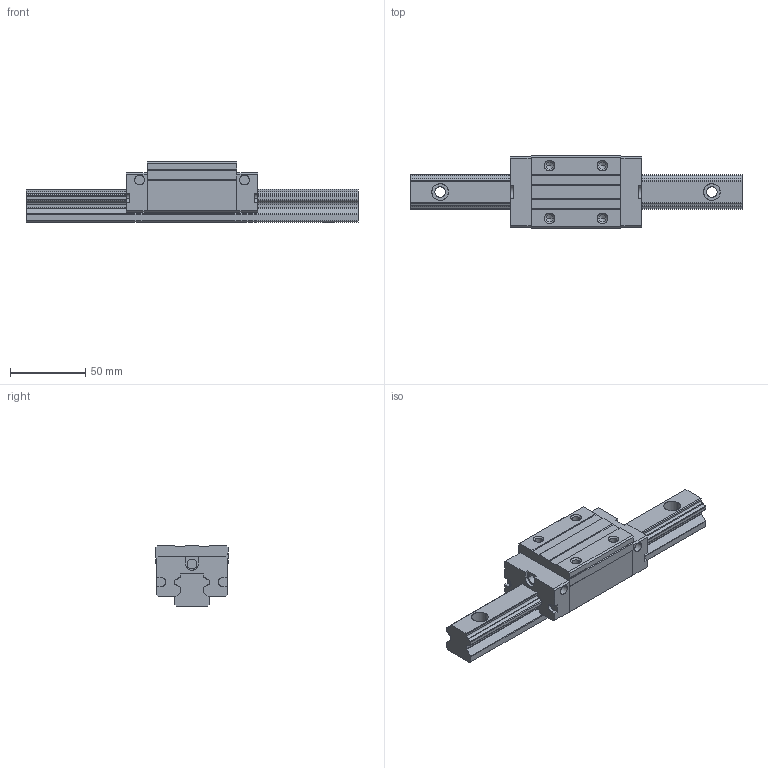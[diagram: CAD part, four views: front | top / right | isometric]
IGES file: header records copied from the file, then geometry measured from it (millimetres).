
Start section: START RECORD GO HERE.
Global section: file name: SBG25_SL.igs; native system: IBM CATIA IGES - CATIA Version 5 Release 16 ; preprocessor: CATIA Version 5 Release 16 ; author: mycom; organization: RD03; date: 20070317.135257; units: millimetre
Bounding box: 220 x 48 x 39.9 mm (x, y, z)
Surface area: 47889.5 mm2 (no closed solid volume)
Topology: 0 solids, 0 shells, 261 faces, 1430 edges, 1422 vertices
Faces by surface type: revolution 138, plane 123
